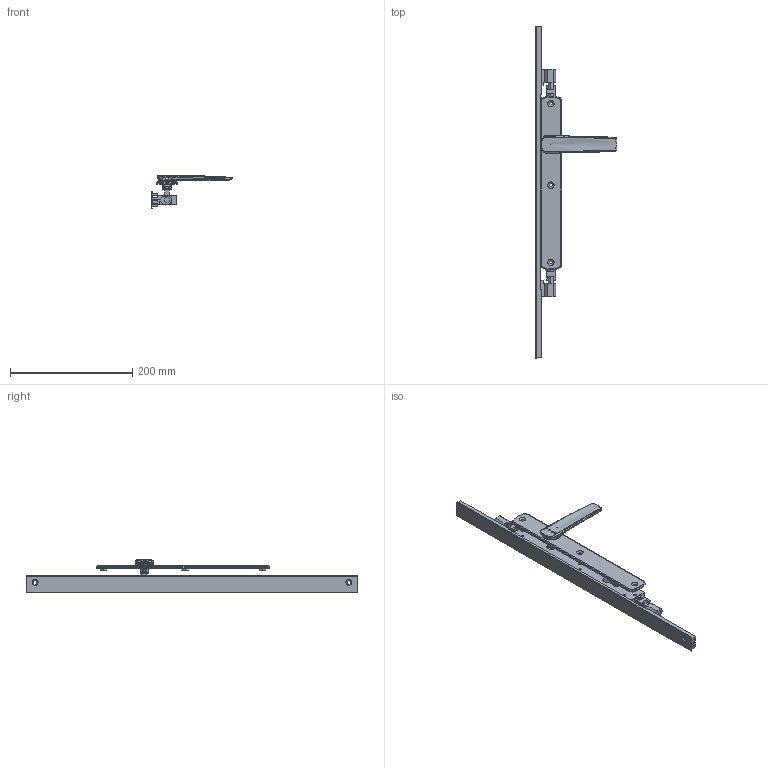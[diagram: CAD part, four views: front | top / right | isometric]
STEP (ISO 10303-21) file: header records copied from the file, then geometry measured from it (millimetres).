
FILE_DESCRIPTION (( 'STEP AP214' ), '1' );
FILE_NAME ('TPL-W-EU-612-U 06Nov2024.STEP', '2024-11-27T01:43:15', ( '' ), ( '' ), 'SwSTEP 2.0', 'SolidWorks 2023', '' );
FILE_SCHEMA (( 'AUTOMOTIVE_DESIGN' ));
Length unit declared in the file: millimetre
Products named in the file (18): Copy of TPLGen2 push rod - simplified^Copy of TPLGen2 lock body keyed assembly_TPL-W-EU-112 04Nov2024_Female thread M10; Copy of TPGen2 handle non-keyed long zinc - simplified^TPL-W-EU-112 04Nov2024_Right; Copy of Adapter DnF - simplfied^TPL-W-EU-112 04Nov2024_26mm backset; Copy of LKC-586 Spindle square 8mm with M4 hole^Copy of TPGen2 handle non-keyed long zinc - simplified_TPL-W-EU-112 04Nov2024_25mm; Copy of TPLGen2 lock body keyed^Copy of TPLGen2 lock body keyed assembly_TPL-W-EU-112 04Nov2024; Copy of Copy of Copy of LKC-531 Lock twinpoint transmission rod wood system^TPL-W-EU-112 04Nov2024_Standard Range 2891.7mm; Bolt.step; Copy of LKC-583 Escutcheon plate unkeyed 285mm long zinc - simplified^Copy of TPGen2 handle non-keyed long zinc - simplified_TPL-W-EU-112 04Nov2024; Copy of COV-112-C Cover C TPLGen2 Lock body^TPL-W-EU-112 04Nov2024; TPL-W-EU-612-U 06Nov2024; Copy of LKC-585 Rotator body zinc^Copy of TPGen2 handle non-keyed long zinc - simplified_TPL-W-EU-112 04Nov2024; Copy of LKC-584 Pivot body zinc - simplified^Copy of TPGen2 handle non-keyed long zinc - simplified_TPL-W-EU-112 04Nov2024; Copy of Adapter CnE - simplfied^TPL-W-EU-112 04Nov2024_26mm backset; Copy of TPLGen2 lock body keyed assembly^TPL-W-EU-112 04Nov2024_Bolts retracted; Copy of Copy of LKC-531 Lock twinpoint transmission rod wood system^TPL-W-EU-112 04Nov2024_Standard Range 2891.7mm; Copy of COV-112-A Cover A suit TPLGen2 standard range^TPL-W-EU-112 04Nov2024_2870mm; Copy (2) of COV-112-B Cover B suit TPLGen2 standard range^TPL-W-EU-112 04Nov2024_2870mm; Copy of LKC-505 Swing handle zinc - simplified^Copy of TPGen2 handle non-keyed long zinc - simplified_TPL-W-EU-112 04Nov2024
Assembly tree (15 placements, depth 3):
  Bolt.step
  TPL-W-EU-612-U 06Nov2024
    Copy of TPLGen2 lock body keyed assembly^TPL-W-EU-112 04Nov2024_Bolts retracted
      Copy of TPLGen2 lock body keyed^Copy of TPLGen2 lock body keyed assembly_TPL-W-EU-112 04Nov2024
      Copy of TPLGen2 push rod - simplified^Copy of TPLGen2 lock body keyed assembly_TPL-W-EU-112 04Nov2024_Female thread M10  x2
    Copy of TPGen2 handle non-keyed long zinc - simplified^TPL-W-EU-112 04Nov2024_Right
      Copy of LKC-583 Escutcheon plate unkeyed 285mm long zinc - simplified^Copy of TPGen2 handle non-keyed long zinc - simplified_TPL-W-EU-112 04Nov2024
      Copy of LKC-505 Swing handle zinc - simplified^Copy of TPGen2 handle non-keyed long zinc - simplified_TPL-W-EU-112 04Nov2024
      Copy of LKC-585 Rotator body zinc^Copy of TPGen2 handle non-keyed long zinc - simplified_TPL-W-EU-112 04Nov2024
      Copy of LKC-586 Spindle square 8mm with M4 hole^Copy of TPGen2 handle non-keyed long zinc - simplified_TPL-W-EU-112 04Nov2024_25mm
      Copy of LKC-584 Pivot body zinc - simplified^Copy of TPGen2 handle non-keyed long zinc - simplified_TPL-W-EU-112 04Nov2024
    Copy of COV-112-C Cover C TPLGen2 Lock body^TPL-W-EU-112 04Nov2024
    Copy of Copy of LKC-531 Lock twinpoint transmission rod wood system^TPL-W-EU-112 04Nov2024_Standard Range 2891.7mm
    Copy of Copy of Copy of LKC-531 Lock twinpoint transmission rod wood system^TPL-W-EU-112 04Nov2024_Standard Range 2891.7mm
    Copy of Adapter CnE - simplfied^TPL-W-EU-112 04Nov2024_26mm backset
    Copy of Adapter DnF - simplfied^TPL-W-EU-112 04Nov2024_26mm backset
  Copy of COV-112-A Cover A suit TPLGen2 standard range^TPL-W-EU-112 04Nov2024_2870mm
  Copy (2) of COV-112-B Cover B suit TPLGen2 standard range^TPL-W-EU-112 04Nov2024_2870mm
Bounding box: 134.12 x 544 x 53.86 mm (x, y, z)
Volume: 271118.9 mm3; surface area: 136116.5 mm2
Topology: 13 solids, 13 shells, 887 faces, 2187 edges, 1360 vertices
Faces by surface type: plane 310, bspline 241, cylinder 206, cone 70, torus 52, sphere 8
Entity records: 31804 total; most frequent: CARTESIAN_POINT 12765, ORIENTED_EDGE 4182, DIRECTION 3417, EDGE_CURVE 2091, VERTEX_POINT 1300, AXIS2_PLACEMENT_3D 1254, EDGE_LOOP 947, LINE 909
